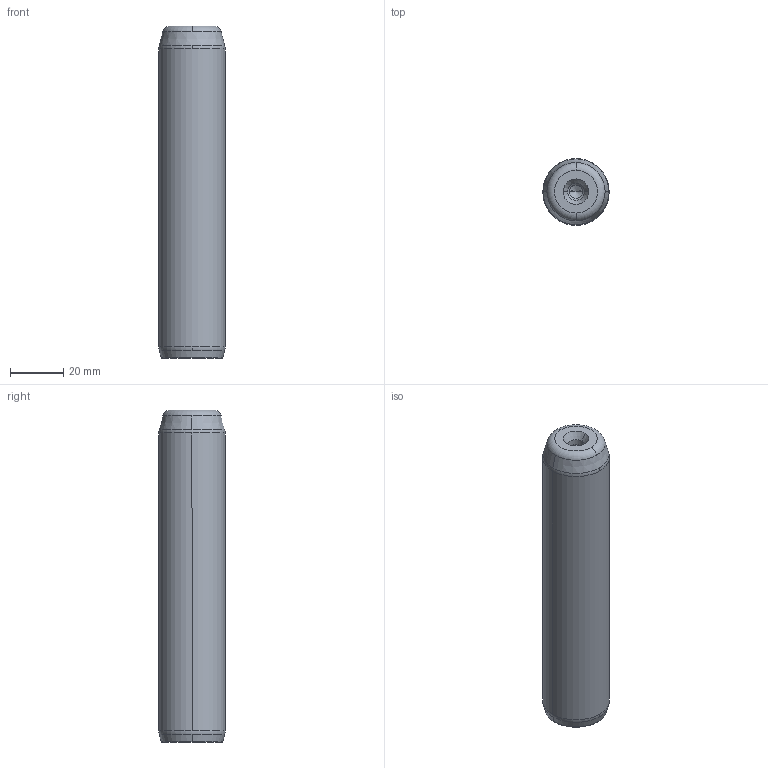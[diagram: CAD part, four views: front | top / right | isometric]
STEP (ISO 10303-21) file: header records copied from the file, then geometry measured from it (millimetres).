
FILE_DESCRIPTION((''),'2;1');
FILE_NAME('P10_025_125.stp','2008-12-23T14:54:09',(''),(''),'Mechanical Desktop 2009','Mechanical Desktop 2009',', , ');
FILE_SCHEMA(('CONFIG_CONTROL_DESIGN'));
Length unit declared in the file: millimetre
Products named in the file (5): Product; ProductAA; blmdl1; ProductA; blmdl1A
Assembly tree (2 placements, depth 3):
  Product
    ProductAA
      blmdl1
  ProductA
  blmdl1A
Bounding box: 25 x 25 x 125 mm (x, y, z)
Volume: 59990.5 mm3; surface area: 10820.4 mm2
Topology: 1 solids, 1 shells, 26 faces, 66 edges, 41 vertices
Faces by surface type: cone 10, torus 8, cylinder 6, plane 2
Entity records: 1012 total; most frequent: DIRECTION 170, CARTESIAN_POINT 134, ORIENTED_EDGE 128, AXIS2_PLACEMENT_3D 77, EDGE_CURVE 64, CIRCLE 48, VERTEX_POINT 41, EDGE_LOOP 27
